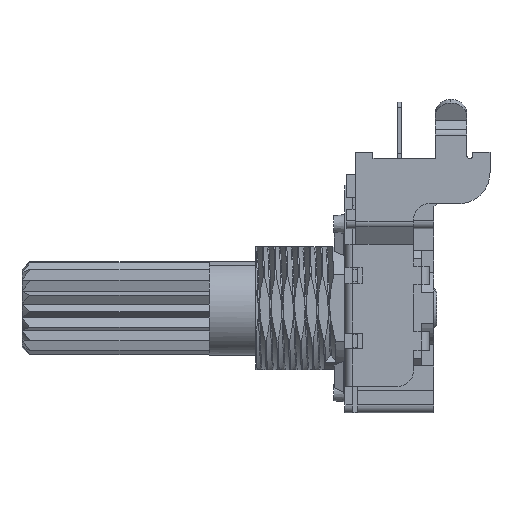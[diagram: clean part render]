
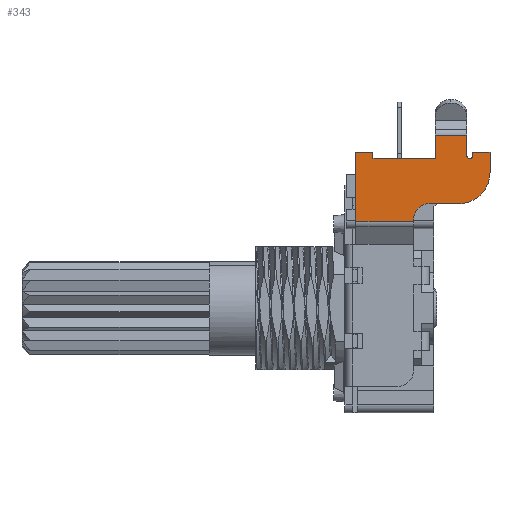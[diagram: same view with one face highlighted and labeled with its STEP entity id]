
A CAD part, left-side view. The second image highlights one B-rep face of the part: STEP entity #343.
In plain terms, the highlighted planar face has unit normal (-1, 0, 0).
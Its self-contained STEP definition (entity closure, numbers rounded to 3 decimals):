
#343 = ADVANCED_FACE ( 'NONE', ( #28760 ), #711, .F. ) ;
#420 = CARTESIAN_POINT ( 'NONE',  ( -8.15, -1.3, 2.1 ) ) ;
#688 = ORIENTED_EDGE ( 'NONE', *, *, #12930, .T. ) ;
#711 = PLANE ( 'NONE',  #17477 ) ;
#770 = VERTEX_POINT ( 'NONE', #23654 ) ;
#1076 = EDGE_CURVE ( 'NONE', #33454, #33954, #5667, .T. ) ;
#1146 = DIRECTION ( 'NONE',  ( -1., 0., 0. ) ) ;
#1374 = AXIS2_PLACEMENT_3D ( 'NONE', #13759, #5041, #16366 ) ;
#1592 = EDGE_CURVE ( 'NONE', #21946, #31761, #11510, .T. ) ;
#1714 = CARTESIAN_POINT ( 'NONE',  ( -8.15, -6.8, -1.2 ) ) ;
#2010 = CARTESIAN_POINT ( 'NONE',  ( -8.15, -5.3, 2.2 ) ) ;
#2191 = VERTEX_POINT ( 'NONE', #23607 ) ;
#2460 = DIRECTION ( 'NONE',  ( 0., 0., -1. ) ) ;
#3943 = CARTESIAN_POINT ( 'NONE',  ( -8.15, -6.8, 0.8 ) ) ;
#4336 = VECTOR ( 'NONE', #32599, 1000. ) ;
#4433 = DIRECTION ( 'NONE',  ( 0., 1., 0. ) ) ;
#4519 = ORIENTED_EDGE ( 'NONE', *, *, #34282, .T. ) ;
#4609 = CARTESIAN_POINT ( 'NONE',  ( -8.15, -0.2, 2.1 ) ) ;
#4745 = VERTEX_POINT ( 'NONE', #4609 ) ;
#4916 = DIRECTION ( 'NONE',  ( 0., 0., -1. ) ) ;
#4943 = DIRECTION ( 'NONE',  ( 0., 0., -1. ) ) ;
#4965 = VECTOR ( 'NONE', #24684, 1000. ) ;
#5041 = DIRECTION ( 'NONE',  ( 1., 0., 0. ) ) ;
#5351 = CARTESIAN_POINT ( 'NONE',  ( -8.15, -0.2, 1.7 ) ) ;
#5667 = CIRCLE ( 'NONE', #35267, 0.2 ) ;
#5975 = EDGE_CURVE ( 'NONE', #36134, #4745, #28573, .T. ) ;
#7753 = EDGE_CURVE ( 'NONE', #19519, #14160, #21564, .T. ) ;
#8164 = ORIENTED_EDGE ( 'NONE', *, *, #35924, .F. ) ;
#8315 = VECTOR ( 'NONE', #10684, 1000. ) ;
#8888 = LINE ( 'NONE', #31171, #10882 ) ;
#9701 = LINE ( 'NONE', #10062, #10964 ) ;
#9914 = VERTEX_POINT ( 'NONE', #15241 ) ;
#10062 = CARTESIAN_POINT ( 'NONE',  ( -8.15, -1.3, 2.1 ) ) ;
#10343 = EDGE_CURVE ( 'NONE', #16434, #9914, #10854, .T. ) ;
#10684 = DIRECTION ( 'NONE',  ( 0., -1., 0. ) ) ;
#10805 = CARTESIAN_POINT ( 'NONE',  ( -8.15, -0.2, -2.357 ) ) ;
#10810 = ORIENTED_EDGE ( 'NONE', *, *, #10343, .T. ) ;
#10854 = LINE ( 'NONE', #27384, #21899 ) ;
#10882 = VECTOR ( 'NONE', #20181, 1000. ) ;
#10938 = LINE ( 'NONE', #5351, #35215 ) ;
#10964 = VECTOR ( 'NONE', #15421, 1000. ) ;
#11510 = LINE ( 'NONE', #22810, #23382 ) ;
#11713 = ORIENTED_EDGE ( 'NONE', *, *, #1076, .T. ) ;
#12046 = CARTESIAN_POINT ( 'NONE',  ( -8.15, -0.2, -2.515 ) ) ;
#12298 = EDGE_CURVE ( 'NONE', #23411, #24543, #12758, .T. ) ;
#12400 = LINE ( 'NONE', #35391, #4336 ) ;
#12503 = CARTESIAN_POINT ( 'NONE',  ( -8.15, -5.3, 3.2 ) ) ;
#12529 = CARTESIAN_POINT ( 'NONE',  ( -8.15, -7.3, 1.9 ) ) ;
#12758 = LINE ( 'NONE', #24781, #8315 ) ;
#12844 = ORIENTED_EDGE ( 'NONE', *, *, #1592, .T. ) ;
#12927 = EDGE_CURVE ( 'NONE', #2191, #14160, #18723, .T. ) ;
#12930 = EDGE_CURVE ( 'NONE', #31761, #16434, #32632, .T. ) ;
#12976 = ORIENTED_EDGE ( 'NONE', *, *, #36478, .F. ) ;
#13759 = CARTESIAN_POINT ( 'NONE',  ( -8.15, -7.5, 1.9 ) ) ;
#13815 = CARTESIAN_POINT ( 'NONE',  ( -8.15, -8.8, 0.8 ) ) ;
#13954 = AXIS2_PLACEMENT_3D ( 'NONE', #3943, #1146, #20807 ) ;
#14160 = VERTEX_POINT ( 'NONE', #19306 ) ;
#14464 = CARTESIAN_POINT ( 'NONE',  ( -8.15, -0.2, 2.1 ) ) ;
#14600 = CARTESIAN_POINT ( 'NONE',  ( -8.15, -1.3, 1.7 ) ) ;
#14655 = CARTESIAN_POINT ( 'NONE',  ( -8.15, -7.7, 2.1 ) ) ;
#15241 = CARTESIAN_POINT ( 'NONE',  ( -8.15, -7.7, 1.9 ) ) ;
#15421 = DIRECTION ( 'NONE',  ( 0., 0., -1. ) ) ;
#16366 = DIRECTION ( 'NONE',  ( 0., 0., -1. ) ) ;
#16408 = CARTESIAN_POINT ( 'NONE',  ( -8.15, -7.5, 1.9 ) ) ;
#16434 = VERTEX_POINT ( 'NONE', #14655 ) ;
#17127 = EDGE_LOOP ( 'NONE', ( #4519, #11713, #20694, #22239, #24736, #8164, #12976, #29170, #35371, #33406, #26835, #24912, #23424, #18087, #12844, #688, #10810 ) ) ;
#17348 = CARTESIAN_POINT ( 'NONE',  ( -8.15, -4.9, -1.2 ) ) ;
#17441 = VECTOR ( 'NONE', #24674, 1000. ) ;
#17477 = AXIS2_PLACEMENT_3D ( 'NONE', #12046, #34675, #21285 ) ;
#18087 = ORIENTED_EDGE ( 'NONE', *, *, #30102, .T. ) ;
#18245 = CARTESIAN_POINT ( 'NONE',  ( -8.15, -7.3, 3.2 ) ) ;
#18723 = LINE ( 'NONE', #2010, #27279 ) ;
#19035 = DIRECTION ( 'NONE',  ( 1., 0., 0. ) ) ;
#19306 = CARTESIAN_POINT ( 'NONE',  ( -8.15, -5.3, 3.2 ) ) ;
#19442 = DIRECTION ( 'NONE',  ( 0., -1., 0. ) ) ;
#19519 = VERTEX_POINT ( 'NONE', #18245 ) ;
#20173 = DIRECTION ( 'NONE',  ( 0., 0., 1. ) ) ;
#20181 = DIRECTION ( 'NONE',  ( 0., 0., 1. ) ) ;
#20694 = ORIENTED_EDGE ( 'NONE', *, *, #28178, .T. ) ;
#20807 = DIRECTION ( 'NONE',  ( 0., 0., -1. ) ) ;
#21154 = LINE ( 'NONE', #21326, #4965 ) ;
#21285 = DIRECTION ( 'NONE',  ( 0., 0., -1. ) ) ;
#21326 = CARTESIAN_POINT ( 'NONE',  ( -8.15, -3.9, -2.515 ) ) ;
#21497 = AXIS2_PLACEMENT_3D ( 'NONE', #33136, #19035, #4943 ) ;
#21564 = LINE ( 'NONE', #12503, #33565 ) ;
#21899 = VECTOR ( 'NONE', #4916, 1000. ) ;
#21946 = VERTEX_POINT ( 'NONE', #13815 ) ;
#22239 = ORIENTED_EDGE ( 'NONE', *, *, #7753, .T. ) ;
#22431 = CARTESIAN_POINT ( 'NONE',  ( -8.15, -8.8, 2.1 ) ) ;
#22810 = CARTESIAN_POINT ( 'NONE',  ( -8.15, -8.8, 1.7 ) ) ;
#23382 = VECTOR ( 'NONE', #20173, 1000. ) ;
#23411 = VERTEX_POINT ( 'NONE', #10805 ) ;
#23424 = ORIENTED_EDGE ( 'NONE', *, *, #32053, .F. ) ;
#23607 = CARTESIAN_POINT ( 'NONE',  ( -8.15, -5.3, 1.7 ) ) ;
#23654 = CARTESIAN_POINT ( 'NONE',  ( -8.15, -3.9, -2.2 ) ) ;
#23877 = CIRCLE ( 'NONE', #21497, 1. ) ;
#24127 = LINE ( 'NONE', #27101, #17441 ) ;
#24421 = VERTEX_POINT ( 'NONE', #17348 ) ;
#24543 = VERTEX_POINT ( 'NONE', #29954 ) ;
#24674 = DIRECTION ( 'NONE',  ( 0., 0., 1. ) ) ;
#24680 = VERTEX_POINT ( 'NONE', #1714 ) ;
#24684 = DIRECTION ( 'NONE',  ( 0., 0., 1. ) ) ;
#24736 = ORIENTED_EDGE ( 'NONE', *, *, #12927, .F. ) ;
#24781 = CARTESIAN_POINT ( 'NONE',  ( -8.15, -0.2, -2.357 ) ) ;
#24912 = ORIENTED_EDGE ( 'NONE', *, *, #33602, .T. ) ;
#25089 = CIRCLE ( 'NONE', #1374, 0.2 ) ;
#26152 = DIRECTION ( 'NONE',  ( 0., 1., 0. ) ) ;
#26774 = EDGE_CURVE ( 'NONE', #24543, #770, #21154, .T. ) ;
#26835 = ORIENTED_EDGE ( 'NONE', *, *, #26774, .T. ) ;
#27004 = VECTOR ( 'NONE', #26152, 1000. ) ;
#27101 = CARTESIAN_POINT ( 'NONE',  ( -8.15, -7.3, 1.7 ) ) ;
#27279 = VECTOR ( 'NONE', #29677, 1000. ) ;
#27384 = CARTESIAN_POINT ( 'NONE',  ( -8.15, -7.7, 2.1 ) ) ;
#28178 = EDGE_CURVE ( 'NONE', #33954, #19519, #24127, .T. ) ;
#28408 = VERTEX_POINT ( 'NONE', #14600 ) ;
#28573 = LINE ( 'NONE', #14464, #27004 ) ;
#28760 = FACE_OUTER_BOUND ( 'NONE', #17127, .T. ) ;
#29170 = ORIENTED_EDGE ( 'NONE', *, *, #5975, .T. ) ;
#29677 = DIRECTION ( 'NONE',  ( 0., 0., 1. ) ) ;
#29873 = CARTESIAN_POINT ( 'NONE',  ( -8.15, -8.8, 2.1 ) ) ;
#29944 = CIRCLE ( 'NONE', #13954, 2. ) ;
#29954 = CARTESIAN_POINT ( 'NONE',  ( -8.15, -3.9, -2.357 ) ) ;
#30102 = EDGE_CURVE ( 'NONE', #24680, #21946, #29944, .T. ) ;
#30857 = VECTOR ( 'NONE', #4433, 1000. ) ;
#31171 = CARTESIAN_POINT ( 'NONE',  ( -8.15, -0.2, -2.515 ) ) ;
#31761 = VERTEX_POINT ( 'NONE', #22431 ) ;
#32053 = EDGE_CURVE ( 'NONE', #24680, #24421, #12400, .T. ) ;
#32599 = DIRECTION ( 'NONE',  ( 0., 1., 0. ) ) ;
#32632 = LINE ( 'NONE', #29873, #30857 ) ;
#33136 = CARTESIAN_POINT ( 'NONE',  ( -8.15, -4.9, -2.2 ) ) ;
#33406 = ORIENTED_EDGE ( 'NONE', *, *, #12298, .T. ) ;
#33454 = VERTEX_POINT ( 'NONE', #33880 ) ;
#33565 = VECTOR ( 'NONE', #35676, 1000. ) ;
#33602 = EDGE_CURVE ( 'NONE', #770, #24421, #23877, .T. ) ;
#33880 = CARTESIAN_POINT ( 'NONE',  ( -8.15, -7.5, 1.7 ) ) ;
#33954 = VERTEX_POINT ( 'NONE', #12529 ) ;
#34199 = DIRECTION ( 'NONE',  ( 1., 0., 0. ) ) ;
#34282 = EDGE_CURVE ( 'NONE', #9914, #33454, #25089, .T. ) ;
#34368 = EDGE_CURVE ( 'NONE', #23411, #4745, #8888, .T. ) ;
#34675 = DIRECTION ( 'NONE',  ( 1., 0., 0. ) ) ;
#35215 = VECTOR ( 'NONE', #19442, 1000. ) ;
#35267 = AXIS2_PLACEMENT_3D ( 'NONE', #16408, #34199, #2460 ) ;
#35371 = ORIENTED_EDGE ( 'NONE', *, *, #34368, .F. ) ;
#35391 = CARTESIAN_POINT ( 'NONE',  ( -8.15, -8.8, -1.2 ) ) ;
#35676 = DIRECTION ( 'NONE',  ( 0., 1., 0. ) ) ;
#35924 = EDGE_CURVE ( 'NONE', #28408, #2191, #10938, .T. ) ;
#36134 = VERTEX_POINT ( 'NONE', #420 ) ;
#36478 = EDGE_CURVE ( 'NONE', #36134, #28408, #9701, .T. ) ;
